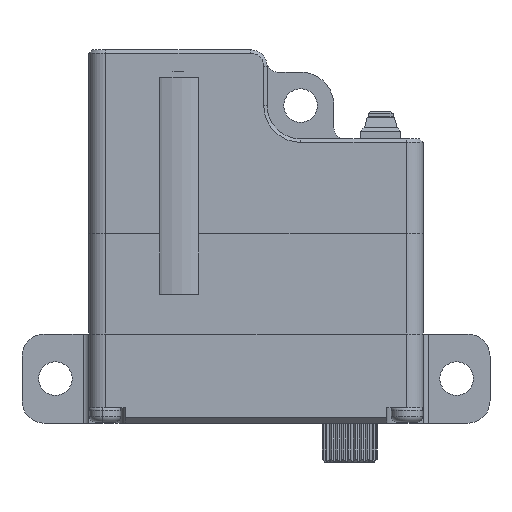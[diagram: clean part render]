
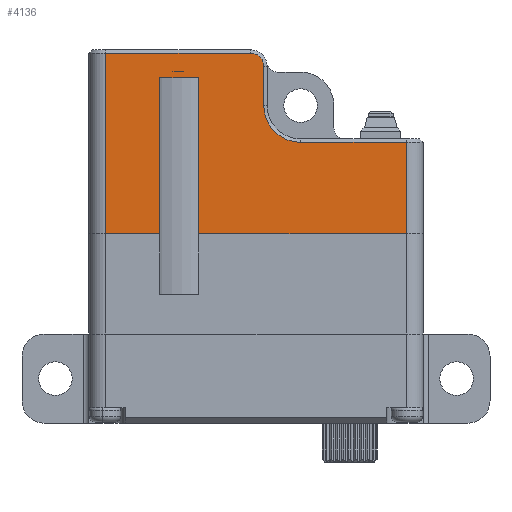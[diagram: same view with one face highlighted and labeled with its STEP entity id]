
A CAD part, left-side view. The second image highlights one B-rep face of the part: STEP entity #4136.
In plain terms, the highlighted planar face has unit normal (-1, 0, 0).
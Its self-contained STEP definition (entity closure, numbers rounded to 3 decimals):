
#81 = CARTESIAN_POINT ( 'NONE',  ( -97.316, -21.581, 14.06 ) ) ;
#136 = CARTESIAN_POINT ( 'NONE',  ( -97.316, -12.081, 14.06 ) ) ;
#278 = AXIS2_PLACEMENT_3D ( 'NONE', #16549, #16436, #11129 ) ;
#679 = CARTESIAN_POINT ( 'NONE',  ( -97.316, 5.419, 22.06 ) ) ;
#714 = CARTESIAN_POINT ( 'NONE',  ( -97.316, -21.581, 10.595 ) ) ;
#918 = CARTESIAN_POINT ( 'NONE',  ( -97.316, -12.081, 17.36 ) ) ;
#1072 = VERTEX_POINT ( 'NONE', #2530 ) ;
#1411 = EDGE_CURVE ( 'NONE', #4470, #5432, #11085, .T. ) ;
#1500 = VECTOR ( 'NONE', #7976, 1000. ) ;
#1548 = ORIENTED_EDGE ( 'NONE', *, *, #8900, .T. ) ;
#1962 = DIRECTION ( 'NONE',  ( 0., 0., 1. ) ) ;
#2152 = VERTEX_POINT ( 'NONE', #81 ) ;
#2210 = EDGE_CURVE ( 'NONE', #13781, #14658, #4913, .T. ) ;
#2530 = CARTESIAN_POINT ( 'NONE',  ( -97.316, -8.781, 20.86 ) ) ;
#2745 = EDGE_LOOP ( 'NONE', ( #13309, #11206, #5420, #5144, #8296, #8203, #11782, #10813, #10174, #5887, #1548, #9098 ) ) ;
#2767 = EDGE_CURVE ( 'NONE', #2152, #8332, #4560, .T. ) ;
#2884 = DIRECTION ( 'NONE',  ( 0., 1., 0. ) ) ;
#3226 = LINE ( 'NONE', #16121, #1500 ) ;
#3279 = EDGE_CURVE ( 'NONE', #10434, #1072, #3226, .T. ) ;
#4136 = ADVANCED_FACE ( 'NONE', ( #14623 ), #8409, .T. ) ;
#4280 = AXIS2_PLACEMENT_3D ( 'NONE', #918, #10465, #11829 ) ;
#4346 = CARTESIAN_POINT ( 'NONE',  ( -97.316, 0.564, 5.86 ) ) ;
#4470 = VERTEX_POINT ( 'NONE', #4346 ) ;
#4560 = LINE ( 'NONE', #9971, #10021 ) ;
#4913 = LINE ( 'NONE', #6725, #9953 ) ;
#5098 = LINE ( 'NONE', #12362, #7839 ) ;
#5144 = ORIENTED_EDGE ( 'NONE', *, *, #3279, .T. ) ;
#5203 = EDGE_CURVE ( 'NONE', #14658, #2152, #15742, .T. ) ;
#5251 = DIRECTION ( 'NONE',  ( -1., 0., 0. ) ) ;
#5420 = ORIENTED_EDGE ( 'NONE', *, *, #16161, .T. ) ;
#5432 = VERTEX_POINT ( 'NONE', #7963 ) ;
#5562 = EDGE_CURVE ( 'NONE', #6015, #4470, #14200, .T. ) ;
#5857 = CARTESIAN_POINT ( 'NONE',  ( -97.316, -22.931, 19.86 ) ) ;
#5887 = ORIENTED_EDGE ( 'NONE', *, *, #16498, .T. ) ;
#5967 = CARTESIAN_POINT ( 'NONE',  ( -97.316, 0.564, 10.595 ) ) ;
#6015 = VERTEX_POINT ( 'NONE', #8313 ) ;
#6039 = AXIS2_PLACEMENT_3D ( 'NONE', #11933, #5251, #14747 ) ;
#6505 = LINE ( 'NONE', #5857, #12614 ) ;
#6725 = CARTESIAN_POINT ( 'NONE',  ( -97.316, -22.931, 5.86 ) ) ;
#6747 = CIRCLE ( 'NONE', #4280, 3.3 ) ;
#6873 = CARTESIAN_POINT ( 'NONE',  ( -97.316, -2.936, 10.595 ) ) ;
#7286 = DIRECTION ( 'NONE',  ( 0., -1., 0. ) ) ;
#7499 = LINE ( 'NONE', #6873, #14293 ) ;
#7526 = CARTESIAN_POINT ( 'NONE',  ( -97.316, -2.936, 19.86 ) ) ;
#7839 = VECTOR ( 'NONE', #10860, 1000. ) ;
#7963 = CARTESIAN_POINT ( 'NONE',  ( -97.316, 0.564, 19.86 ) ) ;
#7976 = DIRECTION ( 'NONE',  ( 0., 0., 1. ) ) ;
#8071 = CARTESIAN_POINT ( 'NONE',  ( -97.316, -7.581, 22.06 ) ) ;
#8203 = ORIENTED_EDGE ( 'NONE', *, *, #15469, .T. ) ;
#8296 = ORIENTED_EDGE ( 'NONE', *, *, #13623, .T. ) ;
#8313 = CARTESIAN_POINT ( 'NONE',  ( -97.316, 5.419, 5.86 ) ) ;
#8332 = VERTEX_POINT ( 'NONE', #136 ) ;
#8396 = CARTESIAN_POINT ( 'NONE',  ( -97.316, -21.581, 5.86 ) ) ;
#8409 = PLANE ( 'NONE',  #278 ) ;
#8422 = CARTESIAN_POINT ( 'NONE',  ( -97.316, -22.931, 22.06 ) ) ;
#8900 = EDGE_CURVE ( 'NONE', #14727, #13781, #7499, .T. ) ;
#9098 = ORIENTED_EDGE ( 'NONE', *, *, #2210, .T. ) ;
#9953 = VECTOR ( 'NONE', #16199, 1000. ) ;
#9971 = CARTESIAN_POINT ( 'NONE',  ( -97.316, -22.931, 14.06 ) ) ;
#10021 = VECTOR ( 'NONE', #16574, 1000. ) ;
#10174 = ORIENTED_EDGE ( 'NONE', *, *, #1411, .T. ) ;
#10434 = VERTEX_POINT ( 'NONE', #13069 ) ;
#10465 = DIRECTION ( 'NONE',  ( 1., 0., 0. ) ) ;
#10813 = ORIENTED_EDGE ( 'NONE', *, *, #5562, .T. ) ;
#10860 = DIRECTION ( 'NONE',  ( 0., 0., -1. ) ) ;
#10861 = VERTEX_POINT ( 'NONE', #8071 ) ;
#11085 = LINE ( 'NONE', #5967, #17053 ) ;
#11129 = DIRECTION ( 'NONE',  ( 0., 1., 0. ) ) ;
#11206 = ORIENTED_EDGE ( 'NONE', *, *, #2767, .T. ) ;
#11520 = DIRECTION ( 'NONE',  ( 0., 0., 1. ) ) ;
#11782 = ORIENTED_EDGE ( 'NONE', *, *, #13293, .T. ) ;
#11829 = DIRECTION ( 'NONE',  ( 0., 1., 0. ) ) ;
#11933 = CARTESIAN_POINT ( 'NONE',  ( -97.316, -7.581, 20.86 ) ) ;
#12092 = VECTOR ( 'NONE', #1962, 1000. ) ;
#12252 = LINE ( 'NONE', #8422, #15477 ) ;
#12362 = CARTESIAN_POINT ( 'NONE',  ( -97.316, 5.419, 10.595 ) ) ;
#12614 = VECTOR ( 'NONE', #15351, 1000. ) ;
#12804 = VERTEX_POINT ( 'NONE', #679 ) ;
#13069 = CARTESIAN_POINT ( 'NONE',  ( -97.316, -8.781, 17.36 ) ) ;
#13293 = EDGE_CURVE ( 'NONE', #12804, #6015, #5098, .T. ) ;
#13309 = ORIENTED_EDGE ( 'NONE', *, *, #5203, .T. ) ;
#13316 = CIRCLE ( 'NONE', #6039, 1.2 ) ;
#13417 = CARTESIAN_POINT ( 'NONE',  ( -97.316, -2.936, 5.86 ) ) ;
#13623 = EDGE_CURVE ( 'NONE', #1072, #10861, #13316, .T. ) ;
#13781 = VERTEX_POINT ( 'NONE', #13417 ) ;
#14200 = LINE ( 'NONE', #16828, #14438 ) ;
#14293 = VECTOR ( 'NONE', #14989, 1000. ) ;
#14438 = VECTOR ( 'NONE', #7286, 1000. ) ;
#14623 = FACE_OUTER_BOUND ( 'NONE', #2745, .T. ) ;
#14658 = VERTEX_POINT ( 'NONE', #8396 ) ;
#14727 = VERTEX_POINT ( 'NONE', #7526 ) ;
#14747 = DIRECTION ( 'NONE',  ( 0., 1., 0. ) ) ;
#14989 = DIRECTION ( 'NONE',  ( 0., 0., -1. ) ) ;
#15351 = DIRECTION ( 'NONE',  ( 0., -1., 0. ) ) ;
#15469 = EDGE_CURVE ( 'NONE', #10861, #12804, #12252, .T. ) ;
#15477 = VECTOR ( 'NONE', #2884, 1000. ) ;
#15742 = LINE ( 'NONE', #714, #12092 ) ;
#16121 = CARTESIAN_POINT ( 'NONE',  ( -97.316, -8.781, 20.86 ) ) ;
#16161 = EDGE_CURVE ( 'NONE', #8332, #10434, #6747, .T. ) ;
#16199 = DIRECTION ( 'NONE',  ( 0., -1., 0. ) ) ;
#16436 = DIRECTION ( 'NONE',  ( -1., 0., 0. ) ) ;
#16498 = EDGE_CURVE ( 'NONE', #5432, #14727, #6505, .T. ) ;
#16549 = CARTESIAN_POINT ( 'NONE',  ( -97.316, -22.931, 10.595 ) ) ;
#16574 = DIRECTION ( 'NONE',  ( 0., 1., 0. ) ) ;
#16828 = CARTESIAN_POINT ( 'NONE',  ( -97.316, -22.931, 5.86 ) ) ;
#17053 = VECTOR ( 'NONE', #11520, 1000. ) ;
